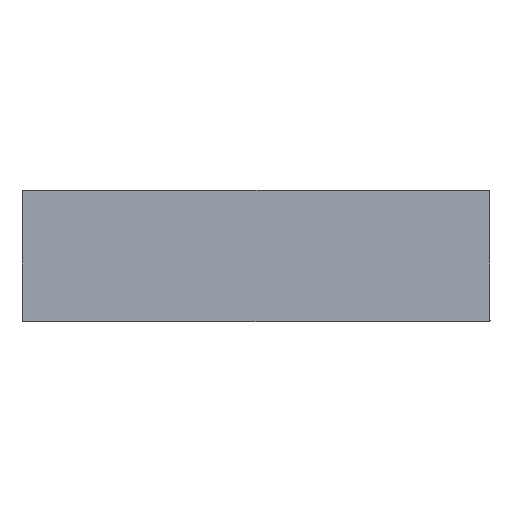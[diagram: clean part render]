
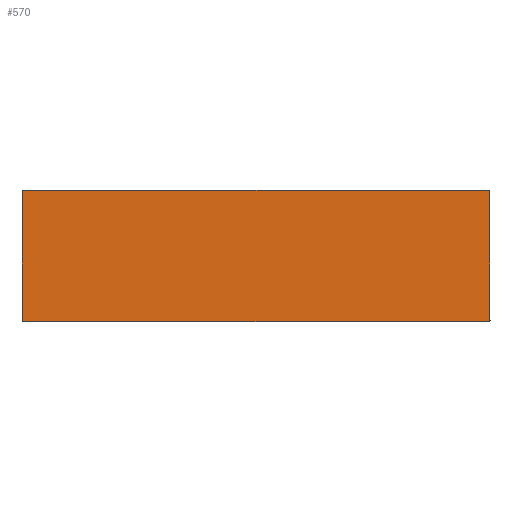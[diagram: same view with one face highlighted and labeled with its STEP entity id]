
A CAD part, top view. The second image highlights one B-rep face of the part: STEP entity #570.
In plain terms, the highlighted planar face has unit normal (0, 0, 1).
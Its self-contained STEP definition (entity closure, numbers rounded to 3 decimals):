
#280=PLANE('',#554);
#282=CIRCLE('',#539,3.);
#284=CIRCLE('',#543,3.);
#286=CIRCLE('',#547,3.);
#288=CIRCLE('',#551,3.);
#329=ORIENTED_EDGE('',*,*,#388,.T.);
#330=ORIENTED_EDGE('',*,*,#408,.F.);
#331=ORIENTED_EDGE('',*,*,#406,.F.);
#332=ORIENTED_EDGE('',*,*,#403,.F.);
#333=ORIENTED_EDGE('',*,*,#400,.F.);
#334=ORIENTED_EDGE('',*,*,#397,.F.);
#335=ORIENTED_EDGE('',*,*,#394,.F.);
#336=ORIENTED_EDGE('',*,*,#391,.T.);
#341=VECTOR('',#441,1.);
#345=VECTOR('',#453,1.);
#349=VECTOR('',#465,1.);
#352=VECTOR('',#476,1.);
#357=LINE('',#499,#341);
#361=LINE('',#511,#345);
#365=LINE('',#523,#349);
#368=LINE('',#532,#352);
#370=VERTEX_POINT('',#487);
#372=VERTEX_POINT('',#491);
#374=VERTEX_POINT('',#496);
#376=VERTEX_POINT('',#502);
#378=VERTEX_POINT('',#508);
#380=VERTEX_POINT('',#514);
#382=VERTEX_POINT('',#520);
#384=VERTEX_POINT('',#526);
#388=EDGE_CURVE('',#370,#372,#282,.T.);
#391=EDGE_CURVE('',#374,#370,#357,.T.);
#394=EDGE_CURVE('',#374,#376,#284,.T.);
#397=EDGE_CURVE('',#376,#378,#361,.T.);
#400=EDGE_CURVE('',#378,#380,#286,.T.);
#403=EDGE_CURVE('',#380,#382,#365,.T.);
#406=EDGE_CURVE('',#382,#384,#288,.T.);
#408=EDGE_CURVE('',#384,#372,#368,.T.);
#418=EDGE_LOOP('',(#329,#330,#331,#332,#333,#334,#335,#336));
#428=FACE_BOUND('',#418,.T.);
#435=DIRECTION('',(0.,0.,1.));
#436=DIRECTION('',(0.,3.,0.));
#441=DIRECTION('',(884.,0.,0.));
#447=DIRECTION('',(0.,0.,-1.));
#448=DIRECTION('',(0.,-3.,0.));
#453=DIRECTION('',(0.,244.,0.));
#459=DIRECTION('',(0.,0.,-1.));
#460=DIRECTION('',(0.,-3.,0.));
#465=DIRECTION('',(884.,0.,0.));
#471=DIRECTION('',(0.,0.,-1.));
#472=DIRECTION('',(0.,-3.,0.));
#476=DIRECTION('',(0.,-244.,0.));
#479=DIRECTION('',(0.,0.,1.));
#480=DIRECTION('',(0.,-1.,0.));
#487=CARTESIAN_POINT('',(5861.504,13881.36,40.));
#491=CARTESIAN_POINT('',(5864.504,13884.36,40.));
#493=CARTESIAN_POINT('',(5861.504,13884.36,40.));
#496=CARTESIAN_POINT('',(4977.504,13881.36,40.));
#499=CARTESIAN_POINT('',(4977.504,13881.36,40.));
#502=CARTESIAN_POINT('',(4974.504,13884.36,40.));
#505=CARTESIAN_POINT('',(4977.504,13884.36,40.));
#508=CARTESIAN_POINT('',(4974.504,14128.36,40.));
#511=CARTESIAN_POINT('',(4974.504,13884.36,40.));
#514=CARTESIAN_POINT('',(4977.504,14131.36,40.));
#517=CARTESIAN_POINT('',(4977.504,14128.36,40.));
#520=CARTESIAN_POINT('',(5861.504,14131.36,40.));
#523=CARTESIAN_POINT('',(4977.504,14131.36,40.));
#526=CARTESIAN_POINT('',(5864.504,14128.36,40.));
#529=CARTESIAN_POINT('',(5861.504,14128.36,40.));
#532=CARTESIAN_POINT('',(5864.504,14128.36,40.));
#534=CARTESIAN_POINT('',(0.,0.,40.));
#539=AXIS2_PLACEMENT_3D('',#493,#435,#436);
#543=AXIS2_PLACEMENT_3D('',#505,#447,#448);
#547=AXIS2_PLACEMENT_3D('',#517,#459,#460);
#551=AXIS2_PLACEMENT_3D('',#529,#471,#472);
#554=AXIS2_PLACEMENT_3D('',#534,#479,#480);
#570=ADVANCED_FACE('',(#428),#280,.T.);
